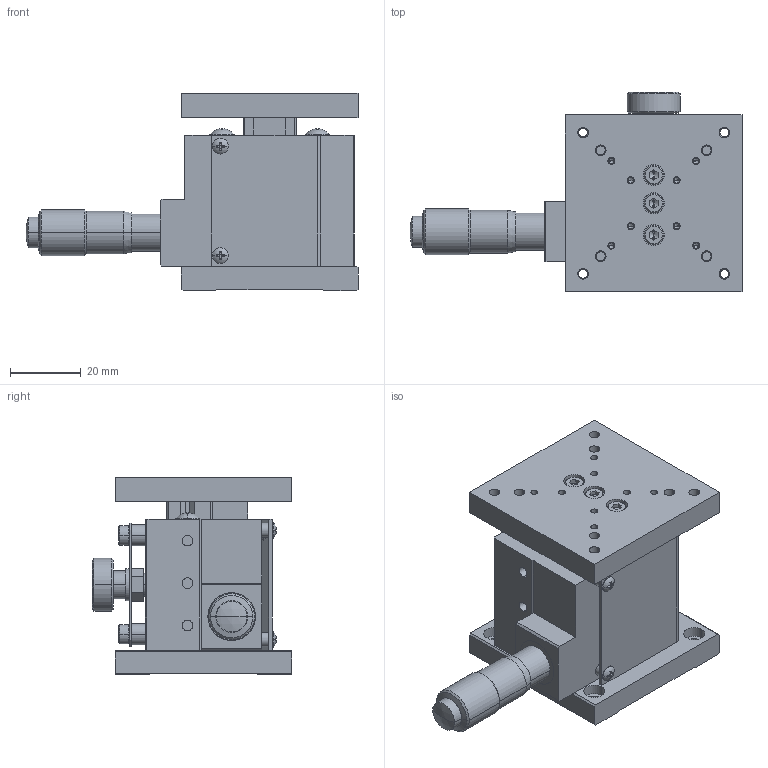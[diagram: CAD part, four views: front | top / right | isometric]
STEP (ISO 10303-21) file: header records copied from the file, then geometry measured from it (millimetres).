
FILE_DESCRIPTION (( 'STEP AP203' ), '1' );
FILE_NAME ('ZM05A-S1K.STEP', '2010-01-12T09:13:38', ( ' ' ), ( ' ' ), 'SwSTEP 2.0', 'SolidWorks 2009', '' );
FILE_SCHEMA (( 'CONFIG_CONTROL_DESIGN' ));
Length unit declared in the file: millimetre
Products named in the file (6): DP004630-1021-00; ZM05A-S1K; DP004630-1021-00-Part-1; 004630-1130(3D); 004630-1030(3D); MITUTOYO_MHS2-13
Assembly tree (5 placements, depth 3):
  ZM05A-S1K
    004630-1030(3D)
    DP004630-1021-00
      DP004630-1021-00-Part-1
    MITUTOYO_MHS2-13
    004630-1130(3D)
Bounding box: 94 x 56.5 x 56 mm (x, y, z)
Volume: 79375 mm3; surface area: 44188.9 mm2
Topology: 4 solids, 49 shells, 1540 faces, 3500 edges, 2073 vertices
Faces by surface type: plane 695, cylinder 494, cone 321, sphere 16, torus 14
Entity records: 43541 total; most frequent: DIRECTION 7894, CARTESIAN_POINT 7718, ORIENTED_EDGE 6816, EDGE_CURVE 3408, AXIS2_PLACEMENT_3D 3009, VERTEX_POINT 2073, VECTOR 1876, LINE 1876
